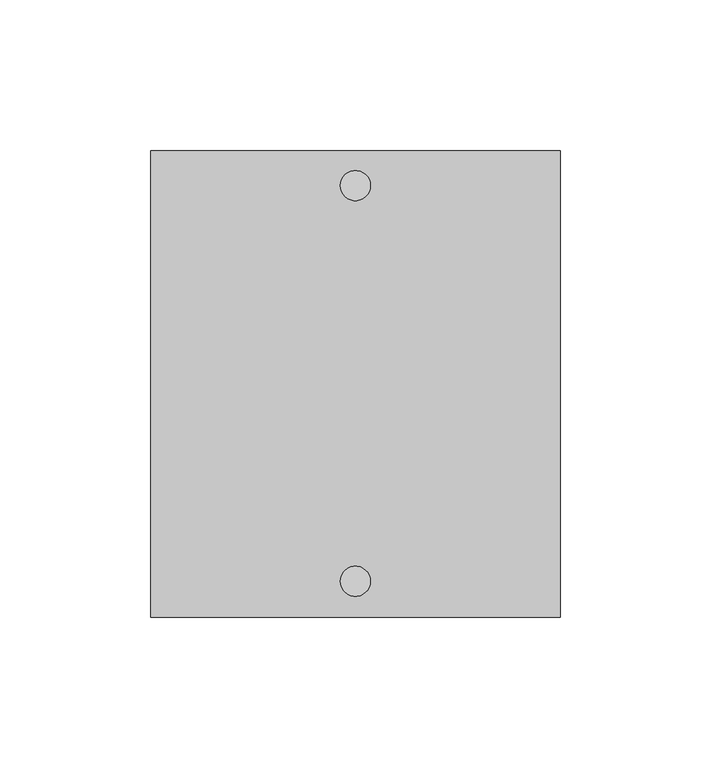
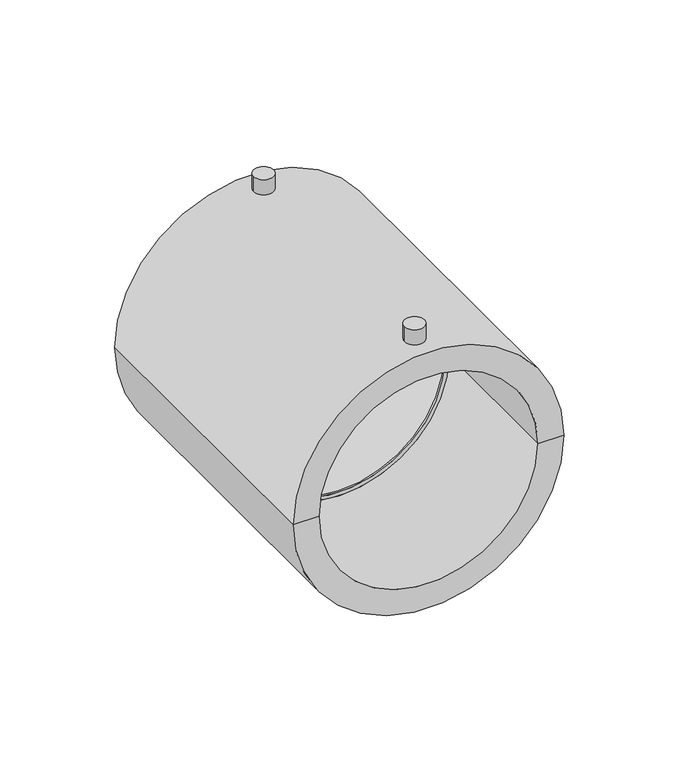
"""IFC4 building model written with IfcOpenShell, lengths in millimetres: pipe fitting geometry, NIRON RED electrico manguito : Estándar."""

from ifc_helpers import new_model, si_unit, point, frame, frame_2d, origin, place, context, project, spatial, polyline, circle_curve, trimmed, segment, composite_curve, outline, extrude, source, transform, mapped, element, save
from ifc_brep_helpers import plane_surface, cylinder_surface, revolved_surface, advanced_brep


def pipe_fitting_ad402d52(model_context):
    return source(origin(), model_context, "Body", "SolidModel", [
        advanced_brep(
        [(68.0, 155.0, 0.0), (-68.0, 155.0, 0.0), (-55.0, 155.0, 0.0), (55.0, 155.0, 0.0), (68.0, 0.0, 0.0), (-68.0, 0.0, 0.0), (55.0, 0.0, 0.0), (-55.0, 0.0, 0.0), (55.0, 77.0, 0.0), (-55.0, 77.0, 0.0), (53.0, 77.0, 0.0), (-53.0, 77.0, 0.0), (53.0, 78.0, 0.0), (-53.0, 78.0, 0.0), (55.0, 78.0, 0.0), (-55.0, 78.0, 0.0)],
        [
            (0, 1, circle_curve(frame((0.0, 155.0, 0.0), z_axis=(0.0, 1.0, 0.0), x_axis=(-1.0, 0.0, 0.0)), 68.0)),
            (1, 2),
            (2, 3, circle_curve(frame((0.0, 155.0, 0.0), z_axis=(0.0, -1.0, 0.0), x_axis=(-1.0, 0.0, 0.0)), 55.0)),
            (3, 0),
            (1, 0, circle_curve(frame((0.0, 155.0, 0.0), z_axis=(0.0, 1.0, 0.0), x_axis=(-1.0, 0.0, 0.0)), 68.0)),
            (3, 2, circle_curve(frame((0.0, 155.0, 0.0), z_axis=(0.0, -1.0, 0.0), x_axis=(-1.0, 0.0, 0.0)), 55.0)),
            (4, 5, circle_curve(frame((0.0, 0.0, 0.0), z_axis=(0.0, 1.0, 0.0), x_axis=(-1.0, 0.0, 0.0)), 68.0)),
            (5, 1),
            (0, 4),
            (5, 4, circle_curve(frame((0.0, 0.0, 0.0), z_axis=(0.0, 1.0, 0.0), x_axis=(-1.0, 0.0, 0.0)), 68.0)),
            (6, 7, circle_curve(frame((0.0, 0.0, 0.0), z_axis=(0.0, 1.0, 0.0), x_axis=(-1.0, 0.0, 0.0)), 55.0)),
            (7, 5),
            (4, 6),
            (7, 6, circle_curve(frame((0.0, 0.0, 0.0), z_axis=(0.0, 1.0, 0.0), x_axis=(-1.0, 0.0, 0.0)), 55.0)),
            (8, 9, circle_curve(frame((0.0, 77.0, 0.0), z_axis=(0.0, 1.0, 0.0), x_axis=(-1.0, 0.0, 0.0)), 55.0)),
            (9, 7),
            (6, 8),
            (9, 8, circle_curve(frame((0.0, 77.0, 0.0), z_axis=(0.0, 1.0, 0.0), x_axis=(-1.0, 0.0, 0.0)), 55.0)),
            (10, 11, circle_curve(frame((0.0, 77.0, 0.0), z_axis=(0.0, 1.0, 0.0), x_axis=(-1.0, 0.0, 0.0)), 53.0)),
            (11, 9),
            (8, 10),
            (11, 10, circle_curve(frame((0.0, 77.0, 0.0), z_axis=(0.0, 1.0, 0.0), x_axis=(-1.0, 0.0, 0.0)), 53.0)),
            (12, 13, circle_curve(frame((0.0, 78.0, 0.0), z_axis=(0.0, 1.0, 0.0), x_axis=(-1.0, 0.0, 0.0)), 53.0)),
            (13, 11),
            (10, 12),
            (13, 12, circle_curve(frame((0.0, 78.0, 0.0), z_axis=(0.0, 1.0, 0.0), x_axis=(-1.0, 0.0, 0.0)), 53.0)),
            (14, 15, circle_curve(frame((0.0, 78.0, 0.0), z_axis=(0.0, 1.0, 0.0), x_axis=(-1.0, 0.0, 0.0)), 55.0)),
            (15, 13),
            (12, 14),
            (15, 14, circle_curve(frame((0.0, 78.0, 0.0), z_axis=(0.0, 1.0, 0.0), x_axis=(-1.0, 0.0, 0.0)), 55.0)),
            (2, 15),
            (14, 3),
        ],
        [
            plane_surface(frame((0.0, 155.0, 0.0), z_axis=(0.0, 1.0, 0.0), x_axis=(-1.0, 0.0, 0.0))),
            cylinder_surface(frame((0.0, 180.0, 0.0), z_axis=(0.0, -1.0, 0.0), x_axis=(-1.0, 0.0, 0.0)), 68.0),
            plane_surface(frame((0.0, 0.0, 0.0), z_axis=(0.0, -1.0, 0.0), x_axis=(-1.0, 0.0, 0.0))),
            revolved_surface(polyline([(-55.0, 0.0, 0.0), (-55.0, 77.0, 0.0)]), (0.0, 180.0, 0.0), (0.0, -1.0, 0.0)),
            plane_surface(frame((0.0, 77.0, 0.0), z_axis=(0.0, -1.0, 0.0), x_axis=(-1.0, 0.0, 0.0))),
            revolved_surface(polyline([(-53.0, 77.0, 0.0), (-53.0, 78.0, 0.0)]), (0.0, 180.0, 0.0), (0.0, -1.0, 0.0)),
            plane_surface(frame((0.0, 78.0, 0.0), z_axis=(0.0, 1.0, 0.0), x_axis=(-1.0, 0.0, 0.0))),
            revolved_surface(polyline([(-55.0, 78.0, 0.0), (-55.0, 155.0, 0.0)]), (0.0, 180.0, 0.0), (0.0, -1.0, 0.0)),
        ],
        [
            (0, [[1, 2, 3, 4]]),
            (0, [[5, -4, 6, -2]]),
            (1, [[7, 8, -1, 9]]),
            (1, [[10, -9, -5, -8]]),
            (2, [[11, 12, -7, 13]]),
            (2, [[14, -13, -10, -12]]),
            (3, [[15, 16, -11, 17]]),
            (3, [[18, -17, -14, -16]]),
            (4, [[19, 20, -15, 21]]),
            (4, [[22, -21, -18, -20]]),
            (5, [[23, 24, -19, 25]]),
            (5, [[26, -25, -22, -24]]),
            (6, [[27, 28, -23, 29]]),
            (6, [[30, -29, -26, -28]]),
            (7, [[-3, 31, -27, 32]]),
            (7, [[-6, -32, -30, -31]]),
        ],
    ),
        extrude(outline(composite_curve([segment(trimmed(circle_curve(frame_2d((0.0, 12.0)), 5.0), [point((-5.0, 12.0))], [point((5.0, 12.0))], False, "CARTESIAN"), True, "CONTINUOUS"), segment(trimmed(circle_curve(frame_2d((0.0, 12.0)), 5.0), [point((5.0, 12.0))], [point((-5.0, 12.0))], False, "CARTESIAN"), True, "CONTINUOUS")], self_intersect=False)), frame((0.0, 0.0, 65.0), z_axis=(0.0, 0.0, 1.0), x_axis=(1.0, 0.0, 0.0)), (0.0, 0.0, 1.0), 11.0),
        extrude(outline(composite_curve([segment(trimmed(circle_curve(frame_2d((0.0, 143.3742842)), 5.0), [point((-5.0, 143.3742842))], [point((5.0, 143.3742842))], False, "CARTESIAN"), True, "CONTINUOUS"), segment(trimmed(circle_curve(frame_2d((0.0, 143.3742842)), 5.0), [point((5.0, 143.3742842))], [point((-5.0, 143.3742842))], False, "CARTESIAN"), True, "CONTINUOUS")], self_intersect=False)), frame((0.0, 0.0, 65.0), z_axis=(0.0, 0.0, 1.0), x_axis=(1.0, 0.0, 0.0)), (0.0, 0.0, 1.0), 11.0),
    ])


if __name__ == "__main__":
    model = new_model("IFC4")
    model_context = context("Model", 3, world=origin())
    ifc_project = project(units=[si_unit("LENGTHUNIT", "METRE", prefix="MILLI")], contexts=[model_context])
    site = spatial("IfcSite", under=ifc_project)
    building = spatial("IfcBuilding", under=site)
    placement = place(None, origin())
    pipe_fitting_shape = pipe_fitting_ad402d52(model_context)
    element("IfcPipeFitting", 1, ObjectType="NIRON RED electrico manguito : Estándar", at=placement, inside=building, context=model_context, shape_type="MappedRepresentation", body=[
        mapped(pipe_fitting_shape, transform((0.0, 0.0, 0.0), x_axis=(1.0, 0.0, 0.0), y_axis=(0.0, 1.0, 0.0), z_axis=(0.0, 0.0, 1.0))),
    ])
    save(model, "model.ifc")
